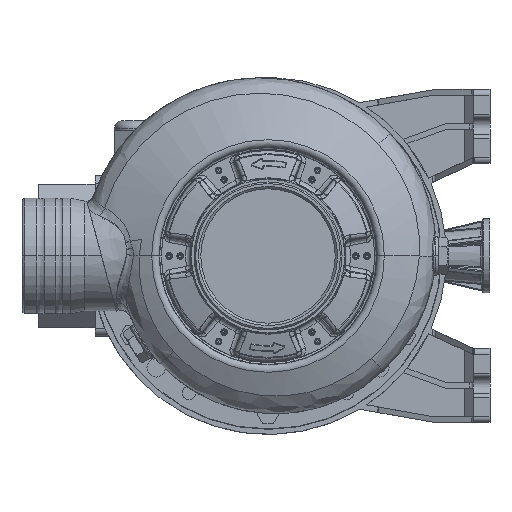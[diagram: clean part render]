
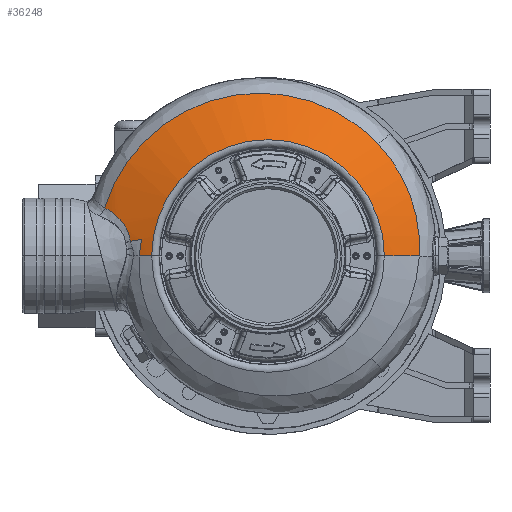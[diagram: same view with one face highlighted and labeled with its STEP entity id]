
A CAD part, left-side view. The second image highlights one B-rep face of the part: STEP entity #36248.
In plain terms, the highlighted spherical face has radius 172 mm.
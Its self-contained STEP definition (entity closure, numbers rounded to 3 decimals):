
#25615=CARTESIAN_POINT('',(0.,0.,36.093));
#25616=DIRECTION('',(0.,0.,-1.));
#25617=DIRECTION('',(0.,1.,0.));
#25618=AXIS2_PLACEMENT_3D('',#25615,#25616,#25617);
#25623=CARTESIAN_POINT('',(0.,0.,-124.));
#25624=DIRECTION('',(1.,0.,0.));
#25625=DIRECTION('',(0.,0.405,0.914));
#25626=AXIS2_PLACEMENT_3D('',#25623,#25624,#25625);
#25631=CARTESIAN_POINT('',(9.009,68.431,33.544));
#25632=CARTESIAN_POINT('',(8.266,68.578,33.522));
#25633=CARTESIAN_POINT('',(6.775,68.847,33.48));
#25634=CARTESIAN_POINT('',(4.526,69.175,33.417));
#25635=CARTESIAN_POINT('',(2.643,69.386,33.365));
#25636=CARTESIAN_POINT('',(1.134,69.517,33.323));
#25637=CARTESIAN_POINT('',(0.378,69.57,
33.302));
#25638=CARTESIAN_POINT('',(0.,69.594,
33.292));
#25643=CARTESIAN_POINT('',(9.009,68.431,33.544));
#25644=CARTESIAN_POINT('',(8.707,70.44,32.688));
#25645=CARTESIAN_POINT('',(8.356,72.427,31.799));
#25646=CARTESIAN_POINT('',(7.957,74.388,30.878));
#25651=CARTESIAN_POINT('',(7.957,74.388,30.878));
#25652=CARTESIAN_POINT('',(10.071,74.682,30.628));
#25653=CARTESIAN_POINT('',(14.185,75.867,29.757));
#25654=CARTESIAN_POINT('',(18.437,78.68,27.861));
#25655=CARTESIAN_POINT('',(21.255,81.382,26.042));
#25656=CARTESIAN_POINT('',(23.108,83.57,24.558));
#25657=CARTESIAN_POINT('',(24.422,85.507,23.235));
#25658=CARTESIAN_POINT('',(25.38,87.089,22.138));
#25659=CARTESIAN_POINT('',(25.789,87.907,21.573));
#25660=CARTESIAN_POINT('',(26.018,88.303,21.291));
#25665=CARTESIAN_POINT('',(26.018,88.303,21.291));
#25666=CARTESIAN_POINT('',(29.663,87.18,21.321));
#25667=CARTESIAN_POINT('',(36.812,84.458,21.395));
#25668=CARTESIAN_POINT('',(46.935,79.,21.547));
#25669=CARTESIAN_POINT('',(56.228,72.298,21.737));
#25670=CARTESIAN_POINT('',(64.596,64.424,21.962));
#25671=CARTESIAN_POINT('',(71.869,55.528,22.218));
#25672=CARTESIAN_POINT('',(77.927,45.75,22.5));
#25673=CARTESIAN_POINT('',(82.651,35.291,22.803));
#25674=CARTESIAN_POINT('',(85.978,24.305,23.123));
#25675=CARTESIAN_POINT('',(87.85,12.961,23.453));
#25676=CARTESIAN_POINT('',(88.229,1.46,23.789));
#25677=CARTESIAN_POINT('',(87.106,-9.991,
24.124));
#25678=CARTESIAN_POINT('',(84.51,-21.173,
24.451));
#25679=CARTESIAN_POINT('',(80.472,-31.944,
24.768));
#25680=CARTESIAN_POINT('',(75.076,-42.085,
25.066));
#25681=CARTESIAN_POINT('',(68.376,-51.473,
25.343));
#25682=CARTESIAN_POINT('',(63.161,-57.065,
25.509));
#25683=CARTESIAN_POINT('',(60.385,-59.678,
25.586));
#25688=CARTESIAN_POINT('',(60.385,-59.678,
25.586));
#25689=CARTESIAN_POINT('',(57.738,-62.171,
25.661));
#25690=CARTESIAN_POINT('',(52.092,-66.819,
25.819));
#25691=CARTESIAN_POINT('',(42.734,-72.619,
26.083));
#25692=CARTESIAN_POINT('',(32.595,-77.146,
26.37));
#25693=CARTESIAN_POINT('',(21.97,-80.25,
26.672));
#25694=CARTESIAN_POINT('',(11.026,-81.898,
26.983));
#25695=CARTESIAN_POINT('',(3.664,-82.005,
27.193));
#25696=CARTESIAN_POINT('',(0.,-81.811,
27.297));
#25701=CARTESIAN_POINT('',(0.,0.,-124.));
#25702=DIRECTION('',(-1.,0.,0.));
#25703=DIRECTION('',(0.,-0.476,0.88));
#25704=AXIS2_PLACEMENT_3D('',#25701,#25702,#25703);
#25733=CARTESIAN_POINT('',(0.,-81.811,
27.297));
#25856=CARTESIAN_POINT('',(7.957,74.388,30.878));
#25864=CARTESIAN_POINT('',(26.018,88.303,21.291));
#29638=VERTEX_POINT('',#25733);
#29639=VERTEX_POINT('',#25688);
#29642=VERTEX_POINT('',#25631);
#29643=VERTEX_POINT('',#25638);
#29683=VERTEX_POINT('',#25856);
#29685=VERTEX_POINT('',#25864);
#29763=CARTESIAN_POINT('',(0.,62.883,36.093));
#29764=CARTESIAN_POINT('',(0.,-62.883,36.093));
#29765=VERTEX_POINT('',#29763);
#29766=VERTEX_POINT('',#29764);
#36226=CARTESIAN_POINT('',(0.,0.,-124.));
#36227=DIRECTION('',(0.,0.,1.));
#36228=DIRECTION('',(0.,1.,0.));
#36229=AXIS2_PLACEMENT_3D('',#36226,#36227,#36228);
#36230=SPHERICAL_SURFACE('',#36229,172.);
#36232=ORIENTED_EDGE('',*,*,#36231,.F.);
#36234=ORIENTED_EDGE('',*,*,#36233,.F.);
#36236=ORIENTED_EDGE('',*,*,#36235,.F.);
#36238=ORIENTED_EDGE('',*,*,#36237,.T.);
#36240=ORIENTED_EDGE('',*,*,#36239,.T.);
#36242=ORIENTED_EDGE('',*,*,#36241,.T.);
#36243=ORIENTED_EDGE('',*,*,#36216,.T.);
#36245=ORIENTED_EDGE('',*,*,#36244,.T.);
#36246=EDGE_LOOP('',(#36232,#36234,#36236,#36238,#36240,#36242,#36243,#36245));
#36247=FACE_OUTER_BOUND('',#36246,.F.);
#25619=CIRCLE('',#25618,62.883);
#25627=CIRCLE('',#25626,172.);
#25639=B_SPLINE_CURVE_WITH_KNOTS('',3,(#25631,#25632,#25633,#25634,#25635,
#25636,#25637,#25638),.UNSPECIFIED.,.F.,.F.,(4,1,1,1,1,4),(0.,0.25,0.5,
0.75,0.875,1.),.UNSPECIFIED.);
#25647=B_SPLINE_CURVE_WITH_KNOTS('',3,(#25643,#25644,#25645,#25646),
.UNSPECIFIED.,.F.,.F.,(4,4),(0.,1.),.UNSPECIFIED.);
#25661=B_SPLINE_CURVE_WITH_KNOTS('',3,(#25651,#25652,#25653,#25654,#25655,
#25656,#25657,#25658,#25659,#25660),.UNSPECIFIED.,.F.,.F.,(4,1,1,1,1,1,1,4),(
0.,0.25,0.5,0.625,0.75,0.875,0.938,1.),.UNSPECIFIED.);
#25684=B_SPLINE_CURVE_WITH_KNOTS('',3,(#25665,#25666,#25667,#25668,#25669,
#25670,#25671,#25672,#25673,#25674,#25675,#25676,#25677,#25678,#25679,#25680,
#25681,#25682,#25683),.UNSPECIFIED.,.F.,.F.,(4,1,1,1,1,1,1,1,1,1,1,1,1,1,1,1,4),
(0.,0.063,0.125,0.188,0.25,0.313,0.375,0.438,0.5,0.563,
0.625,0.688,0.75,0.813,0.875,0.938,1.),.UNSPECIFIED.);
#25697=B_SPLINE_CURVE_WITH_KNOTS('',3,(#25688,#25689,#25690,#25691,#25692,
#25693,#25694,#25695,#25696),.UNSPECIFIED.,.F.,.F.,(4,1,1,1,1,1,4),(0.,
0.167,0.333,0.5,0.667,0.833,
1.),.UNSPECIFIED.);
#25705=CIRCLE('',#25704,172.);
#36216=EDGE_CURVE('',#29639,#29638,#25697,.T.);
#36231=EDGE_CURVE('',#29765,#29766,#25619,.T.);
#36233=EDGE_CURVE('',#29643,#29765,#25627,.T.);
#36235=EDGE_CURVE('',#29642,#29643,#25639,.T.);
#36237=EDGE_CURVE('',#29642,#29683,#25647,.T.);
#36239=EDGE_CURVE('',#29683,#29685,#25661,.T.);
#36241=EDGE_CURVE('',#29685,#29639,#25684,.T.);
#36244=EDGE_CURVE('',#29638,#29766,#25705,.T.);
#36248=ADVANCED_FACE('',(#36247),#36230,.T.);
